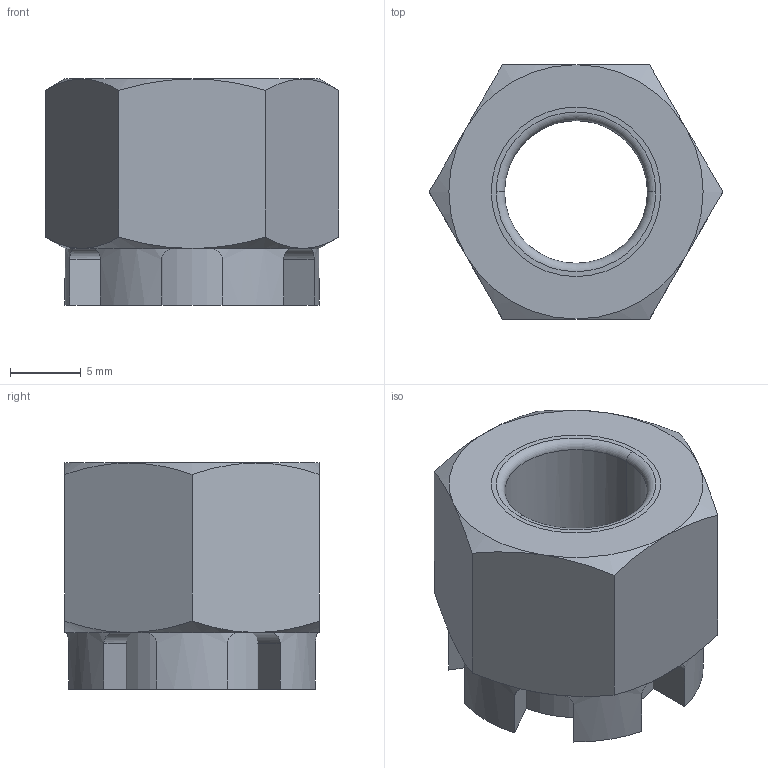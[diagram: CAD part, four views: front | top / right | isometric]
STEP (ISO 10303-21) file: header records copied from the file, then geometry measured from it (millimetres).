
FILE_DESCRIPTION((''),'2;1');
FILE_NAME('M12B_GB6180','2020-05-06T',('Administrator'),(''),'PRO/ENGINEER BY PARAMETRIC TECHNOLOGY CORPORATION, 2010280','PRO/ENGINEER BY PARAMETRIC TECHNOLOGY CORPORATION, 2010280','');
FILE_SCHEMA(());
Length unit declared in the file: millimetre
Products named in the file (1): M12B_GB6180
Bounding box: 20.78 x 18 x 16 mm (x, y, z)
Volume: 2678.6 mm3; surface area: 2427.4 mm2
Topology: 1 solids, 2 shells, 67 faces, 172 edges, 106 vertices
Faces by surface type: plane 31, cylinder 22, cone 12, torus 2
Entity records: 2275 total; most frequent: CARTESIAN_POINT 688, ORIENTED_EDGE 340, DIRECTION 314, EDGE_CURVE 172, AXIS2_PLACEMENT_3D 122, VERTEX_POINT 106, VECTOR 70, LINE 70
